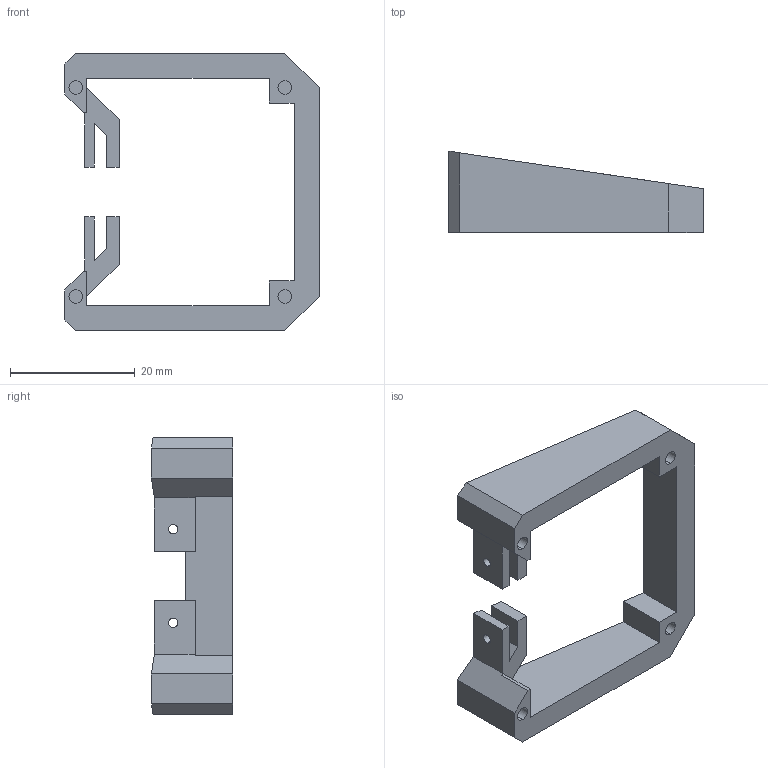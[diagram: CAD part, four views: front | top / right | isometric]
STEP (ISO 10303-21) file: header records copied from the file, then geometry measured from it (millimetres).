
FILE_DESCRIPTION (( 'STEP AP203' ), '1' );
FILE_NAME ('CAMTILT-ANALOG-MOUNT-R2.STEP', '2016-09-07T19:56:11', ( '' ), ( '' ), 'SwSTEP 2.0', 'SolidWorks 2014', '' );
FILE_SCHEMA (( 'CONFIG_CONTROL_DESIGN' ));
Length unit declared in the file: millimetre
Products named in the file (1): CAMTILT-ANALOG-MOUNT-R2
Bounding box: 40.75 x 13 x 44.5 mm (x, y, z)
Volume: 5114.4 mm3; surface area: 4258.1 mm2
Topology: 1 solids, 1 shells, 62 faces, 168 edges, 112 vertices
Faces by surface type: plane 46, cylinder 16
Entity records: 2037 total; most frequent: CARTESIAN_POINT 343, ORIENTED_EDGE 336, DIRECTION 326, EDGE_CURVE 168, LINE 136, VECTOR 136, VERTEX_POINT 112, AXIS2_PLACEMENT_3D 95
